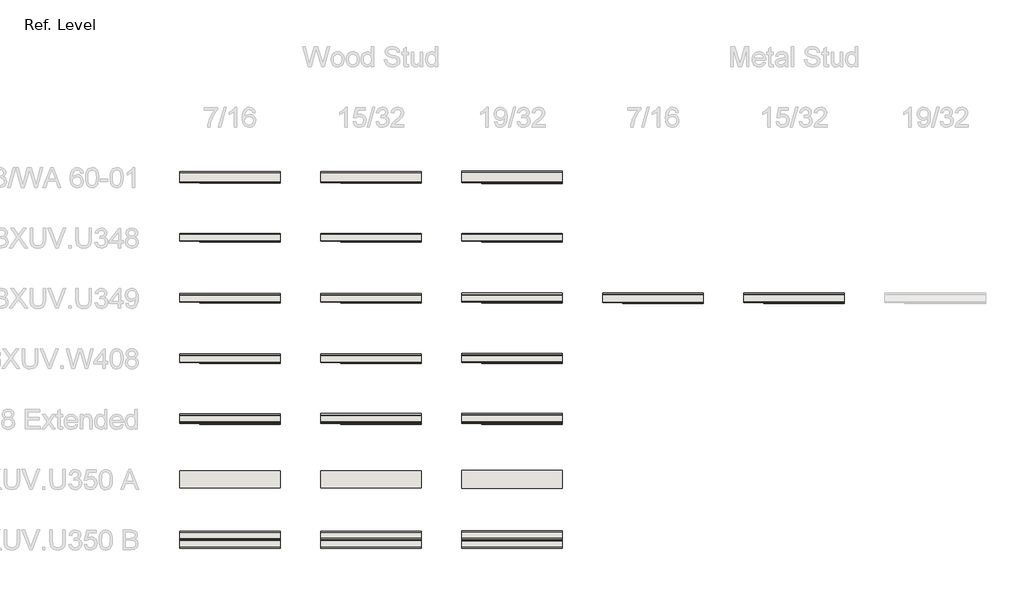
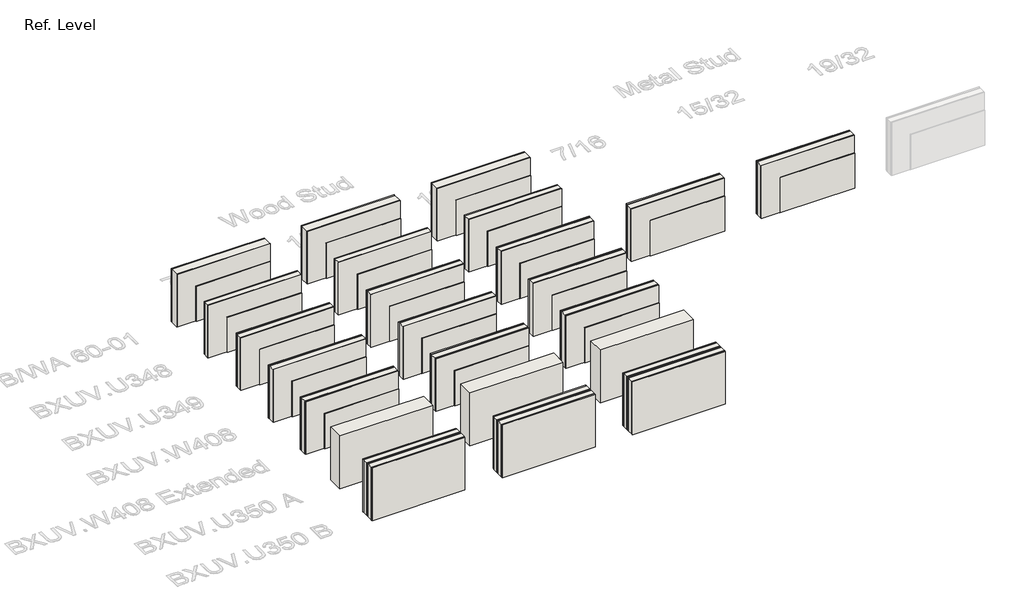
# One storey, part 1 of 5: 23 walls.
"""IFC4 building model written with IfcOpenShell, lengths in millimetres."""

from ifc_helpers import new_model, si_unit, origin, origin_with_axes, place, context, project, spatial, polyline, outline, extrude, element, save

model = new_model("IFC4")

# Units and contexts
model_context = context("Model", 3, world=origin())
ifc_project = project(units=[si_unit("LENGTHUNIT", "METRE", prefix="MILLI")], contexts=[model_context])

# Site, building, storey
site = spatial("IfcSite", under=ifc_project)
building = spatial("IfcBuilding", under=site)
storey = spatial("IfcBuildingStorey", under=building, Name="Ref. Level", Elevation=0.0)

# Walls
placement = place(None, origin())
element("IfcWall", 1, ObjectType="LP FlameBlock - LP Building Products - 7/16\" - Intertek LPB/WA 60-01", at=placement, inside=storey, context=model_context, shape_type="SweptSolid", body=[
    extrude(outline(polyline([(-6204.2239394, -1384.2756705), (-7423.4239394, -1384.2756705), (-7423.4239394, -1371.5756705), (-6204.2239394, -1371.5756705), (-6204.2239394, -1384.2756705)])), origin_with_axes(), (0.0, 0.0, 1.0), 609.6),
    extrude(outline(polyline([(-7728.2239394, -1204.8881705), (-6204.2239394, -1204.8881705), (-6204.2239394, -1220.7631705), (-7728.2239394, -1220.7631705), (-7728.2239394, -1204.8881705)])), origin_with_axes(), (0.0, 0.0, 1.0), 914.4),
    extrude(outline(polyline([(-7728.2239394, -1360.4631705), (-7728.2239394, -1220.7631705), (-6204.2239394, -1220.7631705), (-6204.2239394, -1360.4631705), (-7728.2239394, -1360.4631705)])), origin_with_axes(), (0.0, 0.0, 1.0), 914.4),
    extrude(outline(polyline([(-7728.2239394, -1371.5756705), (-7728.2239394, -1360.4631705), (-6204.2239394, -1360.4631705), (-6204.2239394, -1371.5756705), (-7728.2239394, -1371.5756705)])), origin_with_axes(), (0.0, 0.0, 1.0), 914.4),
])
element("IfcWall", 2, ObjectType="LP FlameBlock - LP Building Products - 15/32\" - Intertek LPB/WA 60-01", at=placement, inside=storey, context=model_context, shape_type="SweptSolid", body=[
    extrude(outline(polyline([(-5594.6239394, -1204.4912955), (-4070.6239394, -1204.4912955), (-4070.6239394, -1220.3662955), (-5594.6239394, -1220.3662955), (-5594.6239394, -1204.4912955)])), origin_with_axes(), (0.0, 0.0, 1.0), 914.4),
    extrude(outline(polyline([(-5594.6239394, -1360.0662955), (-5594.6239394, -1220.3662955), (-4070.6239394, -1220.3662955), (-4070.6239394, -1360.0662955), (-5594.6239394, -1360.0662955)])), origin_with_axes(), (0.0, 0.0, 1.0), 914.4),
    extrude(outline(polyline([(-4070.6239394, -1384.6725455), (-5289.8239394, -1384.6725455), (-5289.8239394, -1371.9725455), (-4070.6239394, -1371.9725455), (-4070.6239394, -1384.6725455)])), origin_with_axes(), (0.0, 0.0, 1.0), 609.6),
    extrude(outline(polyline([(-5594.6239394, -1371.9725455), (-5594.6239394, -1360.0662955), (-4070.6239394, -1360.0662955), (-4070.6239394, -1371.9725455), (-5594.6239394, -1371.9725455)])), origin_with_axes(), (0.0, 0.0, 1.0), 914.4),
])
element("IfcWall", 3, ObjectType="LP FlameBlock - LP Building Products - 19/32\" - Intertek LPB/WA 60-01", at=placement, inside=storey, context=model_context, shape_type="SweptSolid", body=[
    extrude(outline(polyline([(-1937.0239394, -1386.2600455), (-3156.2239394, -1386.2600455), (-3156.2239394, -1373.5600455), (-1937.0239394, -1373.5600455), (-1937.0239394, -1386.2600455)])), origin_with_axes(), (0.0, 0.0, 1.0), 609.6),
    extrude(outline(polyline([(-3461.0239394, -1202.9037955), (-1937.0239394, -1202.9037955), (-1937.0239394, -1218.7787955), (-3461.0239394, -1218.7787955), (-3461.0239394, -1202.9037955)])), origin_with_axes(), (0.0, 0.0, 1.0), 914.4),
    extrude(outline(polyline([(-3461.0239394, -1358.4787955), (-3461.0239394, -1218.7787955), (-1937.0239394, -1218.7787955), (-1937.0239394, -1358.4787955), (-3461.0239394, -1358.4787955)])), origin_with_axes(), (0.0, 0.0, 1.0), 914.4),
    extrude(outline(polyline([(-3461.0239394, -1373.5600455), (-3461.0239394, -1358.4787955), (-1937.0239394, -1358.4787955), (-1937.0239394, -1373.5600455), (-3461.0239394, -1373.5600455)])), origin_with_axes(), (0.0, 0.0, 1.0), 914.4),
])
element("IfcWall", 4, ObjectType="LP FlameBlock - LP Building Products - 7/16\" - BXUV.U348", at=placement, inside=storey, context=model_context, shape_type="SweptSolid", body=[
    extrude(outline(polyline([(-7728.2239394, -2249.4631705), (-7728.2239394, -2160.5631705), (-6204.2239394, -2160.5631705), (-6204.2239394, -2249.4631705), (-7728.2239394, -2249.4631705)])), origin_with_axes(), (0.0, 0.0, 1.0), 914.4),
    extrude(outline(polyline([(-6204.2239394, -2273.2756705), (-7423.4239394, -2273.2756705), (-7423.4239394, -2260.5756705), (-6204.2239394, -2260.5756705), (-6204.2239394, -2273.2756705)])), origin_with_axes(), (0.0, 0.0, 1.0), 609.6),
    extrude(outline(polyline([(-7728.2239394, -2144.6881705), (-6204.2239394, -2144.6881705), (-6204.2239394, -2160.5631705), (-7728.2239394, -2160.5631705), (-7728.2239394, -2144.6881705)])), origin_with_axes(), (0.0, 0.0, 1.0), 914.4),
    extrude(outline(polyline([(-7728.2239394, -2260.5756705), (-7728.2239394, -2249.4631705), (-6204.2239394, -2249.4631705), (-6204.2239394, -2260.5756705), (-7728.2239394, -2260.5756705)])), origin_with_axes(), (0.0, 0.0, 1.0), 914.4),
])
element("IfcWall", 5, ObjectType="LP FlameBlock - LP Building Products - 15/32\" - BXUV.U348", at=placement, inside=storey, context=model_context, shape_type="SweptSolid", body=[
    extrude(outline(polyline([(-5594.6239394, -2249.0662955), (-5594.6239394, -2160.1662955), (-4070.6239394, -2160.1662955), (-4070.6239394, -2249.0662955), (-5594.6239394, -2249.0662955)])), origin_with_axes(), (0.0, 0.0, 1.0), 914.4),
    extrude(outline(polyline([(-4070.6239394, -2273.6725455), (-5289.8239394, -2273.6725455), (-5289.8239394, -2260.9725455), (-4070.6239394, -2260.9725455), (-4070.6239394, -2273.6725455)])), origin_with_axes(), (0.0, 0.0, 1.0), 609.6),
    extrude(outline(polyline([(-5594.6239394, -2144.2912955), (-4070.6239394, -2144.2912955), (-4070.6239394, -2160.1662955), (-5594.6239394, -2160.1662955), (-5594.6239394, -2144.2912955)])), origin_with_axes(), (0.0, 0.0, 1.0), 914.4),
    extrude(outline(polyline([(-5594.6239394, -2260.9725455), (-5594.6239394, -2249.0662955), (-4070.6239394, -2249.0662955), (-4070.6239394, -2260.9725455), (-5594.6239394, -2260.9725455)])), origin_with_axes(), (0.0, 0.0, 1.0), 914.4),
])
element("IfcWall", 6, ObjectType="LP FlameBlock - LP Building Products - 19/32\" - BXUV.U348", at=placement, inside=storey, context=model_context, shape_type="SweptSolid", body=[
    extrude(outline(polyline([(-3461.0239394, -2247.4787955), (-3461.0239394, -2158.5787955), (-1937.0239394, -2158.5787955), (-1937.0239394, -2247.4787955), (-3461.0239394, -2247.4787955)])), origin_with_axes(), (0.0, 0.0, 1.0), 914.4),
    extrude(outline(polyline([(-1937.0239394, -2275.2600455), (-3156.2239394, -2275.2600455), (-3156.2239394, -2262.5600455), (-1937.0239394, -2262.5600455), (-1937.0239394, -2275.2600455)])), origin_with_axes(), (0.0, 0.0, 1.0), 609.6),
    extrude(outline(polyline([(-3461.0239394, -2142.7037955), (-1937.0239394, -2142.7037955), (-1937.0239394, -2158.5787955), (-3461.0239394, -2158.5787955), (-3461.0239394, -2142.7037955)])), origin_with_axes(), (0.0, 0.0, 1.0), 914.4),
    extrude(outline(polyline([(-3461.0239394, -2262.5600455), (-3461.0239394, -2247.4787955), (-1937.0239394, -2247.4787955), (-1937.0239394, -2262.5600455), (-3461.0239394, -2262.5600455)])), origin_with_axes(), (0.0, 0.0, 1.0), 914.4),
])
element("IfcWall", 7, ObjectType="LP FlameBlock - LP Building Products - 7/16\" - BXUV.U349 - Wood Stud", at=placement, inside=storey, context=model_context, shape_type="SweptSolid", body=[
    extrude(outline(polyline([(-7728.2239394, -3171.8006705), (-7728.2239394, -3082.9006705), (-6204.2239394, -3082.9006705), (-6204.2239394, -3171.8006705), (-7728.2239394, -3171.8006705)])), origin_with_axes(), (0.0, 0.0, 1.0), 914.4),
    extrude(outline(polyline([(-6204.2239394, -3195.6131705), (-7423.4239394, -3195.6131705), (-7423.4239394, -3182.9131705), (-6204.2239394, -3182.9131705), (-6204.2239394, -3195.6131705)])), origin_with_axes(), (0.0, 0.0, 1.0), 609.6),
    extrude(outline(polyline([(-7728.2239394, -3051.1506705), (-6204.2239394, -3051.1506705), (-6204.2239394, -3067.0256705), (-7728.2239394, -3067.0256705), (-7728.2239394, -3051.1506705)])), origin_with_axes(), (0.0, 0.0, 1.0), 914.4),
    extrude(outline(polyline([(-7728.2239394, -3182.9131705), (-7728.2239394, -3171.8006705), (-6204.2239394, -3171.8006705), (-6204.2239394, -3182.9131705), (-7728.2239394, -3182.9131705)])), origin_with_axes(), (0.0, 0.0, 1.0), 914.4),
    extrude(outline(polyline([(-7728.2239394, -3082.9006705), (-7728.2239394, -3067.0256705), (-6204.2239394, -3067.0256705), (-6204.2239394, -3082.9006705), (-7728.2239394, -3082.9006705)])), origin_with_axes(), (0.0, 0.0, 1.0), 914.4),
])
element("IfcWall", 8, ObjectType="LP FlameBlock - LP Building Products - 15/32\" - BXUV.U349 - Wood Stud", at=placement, inside=storey, context=model_context, shape_type="SweptSolid", body=[
    extrude(outline(polyline([(-5594.6239394, -3171.4037955), (-5594.6239394, -3082.5037955), (-4070.6239394, -3082.5037955), (-4070.6239394, -3171.4037955), (-5594.6239394, -3171.4037955)])), origin_with_axes(), (0.0, 0.0, 1.0), 914.4),
    extrude(outline(polyline([(-4070.6239394, -3196.0100455), (-5289.8239394, -3196.0100455), (-5289.8239394, -3183.3100455), (-4070.6239394, -3183.3100455), (-4070.6239394, -3196.0100455)])), origin_with_axes(), (0.0, 0.0, 1.0), 609.6),
    extrude(outline(polyline([(-5594.6239394, -3050.7537955), (-4070.6239394, -3050.7537955), (-4070.6239394, -3066.6287955), (-5594.6239394, -3066.6287955), (-5594.6239394, -3050.7537955)])), origin_with_axes(), (0.0, 0.0, 1.0), 914.4),
    extrude(outline(polyline([(-5594.6239394, -3183.3100455), (-5594.6239394, -3171.4037955), (-4070.6239394, -3171.4037955), (-4070.6239394, -3183.3100455), (-5594.6239394, -3183.3100455)])), origin_with_axes(), (0.0, 0.0, 1.0), 914.4),
    extrude(outline(polyline([(-5594.6239394, -3082.5037955), (-5594.6239394, -3066.6287955), (-4070.6239394, -3066.6287955), (-4070.6239394, -3082.5037955), (-5594.6239394, -3082.5037955)])), origin_with_axes(), (0.0, 0.0, 1.0), 914.4),
])
element("IfcWall", 9, ObjectType="LP FlameBlock - LP Building Products - 19/32\" - BXUV.U349 - Wood Stud", at=placement, inside=storey, context=model_context, shape_type="SweptSolid", body=[
    extrude(outline(polyline([(-3461.0239394, -3169.8162955), (-3461.0239394, -3080.9162955), (-1937.0239394, -3080.9162955), (-1937.0239394, -3169.8162955), (-3461.0239394, -3169.8162955)])), origin_with_axes(), (0.0, 0.0, 1.0), 914.4),
    extrude(outline(polyline([(-1937.0239394, -3197.5975455), (-3156.2239394, -3197.5975455), (-3156.2239394, -3184.8975455), (-1937.0239394, -3184.8975455), (-1937.0239394, -3197.5975455)])), origin_with_axes(), (0.0, 0.0, 1.0), 609.6),
    extrude(outline(polyline([(-3461.0239394, -3049.1662955), (-1937.0239394, -3049.1662955), (-1937.0239394, -3065.0412955), (-3461.0239394, -3065.0412955), (-3461.0239394, -3049.1662955)])), origin_with_axes(), (0.0, 0.0, 1.0), 914.4),
    extrude(outline(polyline([(-3461.0239394, -3184.8975455), (-3461.0239394, -3169.8162955), (-1937.0239394, -3169.8162955), (-1937.0239394, -3184.8975455), (-3461.0239394, -3184.8975455)])), origin_with_axes(), (0.0, 0.0, 1.0), 914.4),
    extrude(outline(polyline([(-3461.0239394, -3080.9162955), (-3461.0239394, -3065.0412955), (-1937.0239394, -3065.0412955), (-1937.0239394, -3080.9162955), (-3461.0239394, -3080.9162955)])), origin_with_axes(), (0.0, 0.0, 1.0), 914.4),
])
element("IfcWall", 10, ObjectType="LP FlameBlock - LP Building Products - 7/16\" - BXUV.W408", at=placement, inside=storey, context=model_context, shape_type="SweptSolid", body=[
    extrude(outline(polyline([(-7728.2239394, -4086.2006705), (-7728.2239394, -3997.3006705), (-6204.2239394, -3997.3006705), (-6204.2239394, -4086.2006705), (-7728.2239394, -4086.2006705)])), origin_with_axes(), (0.0, 0.0, 1.0), 914.4),
    extrude(outline(polyline([(-6204.2239394, -4110.0131705), (-7423.4239394, -4110.0131705), (-7423.4239394, -4097.3131705), (-6204.2239394, -4097.3131705), (-6204.2239394, -4110.0131705)])), origin_with_axes(), (0.0, 0.0, 1.0), 609.6),
    extrude(outline(polyline([(-7728.2239394, -3965.5506705), (-6204.2239394, -3965.5506705), (-6204.2239394, -3981.4256705), (-7728.2239394, -3981.4256705), (-7728.2239394, -3965.5506705)])), origin_with_axes(), (0.0, 0.0, 1.0), 914.4),
    extrude(outline(polyline([(-7728.2239394, -4097.3131705), (-7728.2239394, -4086.2006705), (-6204.2239394, -4086.2006705), (-6204.2239394, -4097.3131705), (-7728.2239394, -4097.3131705)])), origin_with_axes(), (0.0, 0.0, 1.0), 914.4),
    extrude(outline(polyline([(-7728.2239394, -3997.3006705), (-7728.2239394, -3981.4256705), (-6204.2239394, -3981.4256705), (-6204.2239394, -3997.3006705), (-7728.2239394, -3997.3006705)])), origin_with_axes(), (0.0, 0.0, 1.0), 914.4),
])
element("IfcWall", 11, ObjectType="LP FlameBlock - LP Building Products - 15/32\" - BXUV.W408", at=placement, inside=storey, context=model_context, shape_type="SweptSolid", body=[
    extrude(outline(polyline([(-5594.6239394, -4085.8037955), (-5594.6239394, -3996.9037955), (-4070.6239394, -3996.9037955), (-4070.6239394, -4085.8037955), (-5594.6239394, -4085.8037955)])), origin_with_axes(), (0.0, 0.0, 1.0), 914.4),
    extrude(outline(polyline([(-4070.6239394, -4110.4100455), (-5289.8239394, -4110.4100455), (-5289.8239394, -4097.7100455), (-4070.6239394, -4097.7100455), (-4070.6239394, -4110.4100455)])), origin_with_axes(), (0.0, 0.0, 1.0), 609.6),
    extrude(outline(polyline([(-5594.6239394, -3965.1537955), (-4070.6239394, -3965.1537955), (-4070.6239394, -3981.0287955), (-5594.6239394, -3981.0287955), (-5594.6239394, -3965.1537955)])), origin_with_axes(), (0.0, 0.0, 1.0), 914.4),
    extrude(outline(polyline([(-5594.6239394, -4097.7100455), (-5594.6239394, -4085.8037955), (-4070.6239394, -4085.8037955), (-4070.6239394, -4097.7100455), (-5594.6239394, -4097.7100455)])), origin_with_axes(), (0.0, 0.0, 1.0), 914.4),
    extrude(outline(polyline([(-5594.6239394, -3996.9037955), (-5594.6239394, -3981.0287955), (-4070.6239394, -3981.0287955), (-4070.6239394, -3996.9037955), (-5594.6239394, -3996.9037955)])), origin_with_axes(), (0.0, 0.0, 1.0), 914.4),
])
element("IfcWall", 12, ObjectType="LP FlameBlock - LP Building Products - 19/32\" - BXUV.W408", at=placement, inside=storey, context=model_context, shape_type="SweptSolid", body=[
    extrude(outline(polyline([(-1937.0239394, -4111.9975455), (-3156.2239394, -4111.9975455), (-3156.2239394, -4099.2975455), (-1937.0239394, -4099.2975455), (-1937.0239394, -4111.9975455)])), origin_with_axes(), (0.0, 0.0, 1.0), 609.6),
    extrude(outline(polyline([(-3461.0239394, -3963.5662955), (-1937.0239394, -3963.5662955), (-1937.0239394, -3979.4412955), (-3461.0239394, -3979.4412955), (-3461.0239394, -3963.5662955)])), origin_with_axes(), (0.0, 0.0, 1.0), 914.4),
    extrude(outline(polyline([(-3461.0239394, -4084.2162955), (-3461.0239394, -3995.3162955), (-1937.0239394, -3995.3162955), (-1937.0239394, -4084.2162955), (-3461.0239394, -4084.2162955)])), origin_with_axes(), (0.0, 0.0, 1.0), 914.4),
    extrude(outline(polyline([(-3461.0239394, -4099.2975455), (-3461.0239394, -4084.2162955), (-1937.0239394, -4084.2162955), (-1937.0239394, -4099.2975455), (-3461.0239394, -4099.2975455)])), origin_with_axes(), (0.0, 0.0, 1.0), 914.4),
    extrude(outline(polyline([(-3461.0239394, -3995.3162955), (-3461.0239394, -3979.4412955), (-1937.0239394, -3979.4412955), (-1937.0239394, -3995.3162955), (-3461.0239394, -3995.3162955)])), origin_with_axes(), (0.0, 0.0, 1.0), 914.4),
])
element("IfcWall", 13, ObjectType="LP FlameBlock - LP Building Products - 7/16\" - BXUV.U350 A", at=placement, inside=storey, context=model_context, shape_type="SweptSolid", body=[
    extrude(outline(polyline([(-6204.2239394, -5995.1694205), (-7728.2239394, -5995.1694205), (-7728.2239394, -5737.9944205), (-6204.2239394, -5737.9944205), (-6204.2239394, -5995.1694205)])), origin_with_axes(), (0.0, 0.0, 1.0), 914.4),
])
element("IfcWall", 14, ObjectType="LP FlameBlock - LP Building Products - 15/32\" - BXUV.U350 A", at=placement, inside=storey, context=model_context, shape_type="SweptSolid", body=[
    extrude(outline(polyline([(-4070.6239394, -5995.9631705), (-5594.6239394, -5995.9631705), (-5594.6239394, -5737.2006705), (-4070.6239394, -5737.2006705), (-4070.6239394, -5995.9631705)])), origin_with_axes(), (0.0, 0.0, 1.0), 914.4),
])
element("IfcWall", 15, ObjectType="LP FlameBlock - LP Building Products - 19/32\" - BXUV.U350 A", at=placement, inside=storey, context=model_context, shape_type="SweptSolid", body=[
    extrude(outline(polyline([(-1937.0239394, -5999.1381705), (-3461.0239394, -5999.1381705), (-3461.0239394, -5734.0256705), (-1937.0239394, -5734.0256705), (-1937.0239394, -5999.1381705)])), origin_with_axes(), (0.0, 0.0, 1.0), 914.4),
])
element("IfcWall", 16, ObjectType="LP FlameBlock - LP Building Products - 7/16\" - BXUV.U350 B", at=placement, inside=storey, context=model_context, shape_type="SweptSolid", body=[
    extrude(outline(polyline([(-6204.2239394, -6909.5694205), (-7728.2239394, -6909.5694205), (-7728.2239394, -6893.6944205), (-6204.2239394, -6893.6944205), (-6204.2239394, -6909.5694205)])), origin_with_axes(), (0.0, 0.0, 1.0), 914.4),
    extrude(outline(polyline([(-7728.2239394, -6652.3944205), (-6204.2239394, -6652.3944205), (-6204.2239394, -6668.2694205), (-7728.2239394, -6668.2694205), (-7728.2239394, -6652.3944205)])), origin_with_axes(), (0.0, 0.0, 1.0), 914.4),
    extrude(outline(polyline([(-7728.2239394, -6887.3444205), (-7728.2239394, -6798.4444205), (-6204.2239394, -6798.4444205), (-6204.2239394, -6887.3444205), (-7728.2239394, -6887.3444205)])), origin_with_axes(), (0.0, 0.0, 1.0), 914.4),
    extrude(outline(polyline([(-7728.2239394, -6774.6319205), (-7728.2239394, -6763.5194205), (-6204.2239394, -6763.5194205), (-6204.2239394, -6774.6319205), (-7728.2239394, -6774.6319205)])), origin_with_axes(), (0.0, 0.0, 1.0), 914.4),
    extrude(outline(polyline([(-7728.2239394, -6787.3319205), (-7728.2239394, -6774.6319205), (-6204.2239394, -6774.6319205), (-6204.2239394, -6787.3319205), (-7728.2239394, -6787.3319205)])), origin_with_axes(), (0.0, 0.0, 1.0), 914.4),
    extrude(outline(polyline([(-7728.2239394, -6798.4444205), (-7728.2239394, -6787.3319205), (-6204.2239394, -6787.3319205), (-6204.2239394, -6798.4444205), (-7728.2239394, -6798.4444205)])), origin_with_axes(), (0.0, 0.0, 1.0), 914.4),
    extrude(outline(polyline([(-7728.2239394, -6763.5194205), (-7728.2239394, -6674.6194205), (-6204.2239394, -6674.6194205), (-6204.2239394, -6763.5194205), (-7728.2239394, -6763.5194205)])), origin_with_axes(), (0.0, 0.0, 1.0), 914.4),
    extrude(outline(polyline([(-7728.2239394, -6674.6194205), (-7728.2239394, -6668.2694205), (-6204.2239394, -6668.2694205), (-6204.2239394, -6674.6194205), (-7728.2239394, -6674.6194205)])), origin_with_axes(), (0.0, 0.0, 1.0), 914.4),
    extrude(outline(polyline([(-7728.2239394, -6893.6944205), (-7728.2239394, -6887.3444205), (-6204.2239394, -6887.3444205), (-6204.2239394, -6893.6944205), (-7728.2239394, -6893.6944205)])), origin_with_axes(), (0.0, 0.0, 1.0), 914.4),
])
element("IfcWall", 17, ObjectType="LP FlameBlock - LP Building Products - 15/32\" - BXUV.U350 B", at=placement, inside=storey, context=model_context, shape_type="SweptSolid", body=[
    extrude(outline(polyline([(-4070.6239394, -6910.3631705), (-5594.6239394, -6910.3631705), (-5594.6239394, -6894.4881705), (-4070.6239394, -6894.4881705), (-4070.6239394, -6910.3631705)])), origin_with_axes(), (0.0, 0.0, 1.0), 914.4),
    extrude(outline(polyline([(-5594.6239394, -6651.6006705), (-4070.6239394, -6651.6006705), (-4070.6239394, -6667.4756705), (-5594.6239394, -6667.4756705), (-5594.6239394, -6651.6006705)])), origin_with_axes(), (0.0, 0.0, 1.0), 914.4),
    extrude(outline(polyline([(-5594.6239394, -6888.1381705), (-5594.6239394, -6799.2381705), (-4070.6239394, -6799.2381705), (-4070.6239394, -6888.1381705), (-5594.6239394, -6888.1381705)])), origin_with_axes(), (0.0, 0.0, 1.0), 914.4),
    extrude(outline(polyline([(-5594.6239394, -6774.6319205), (-5594.6239394, -6762.7256705), (-4070.6239394, -6762.7256705), (-4070.6239394, -6774.6319205), (-5594.6239394, -6774.6319205)])), origin_with_axes(), (0.0, 0.0, 1.0), 914.4),
    extrude(outline(polyline([(-5594.6239394, -6787.3319205), (-5594.6239394, -6774.6319205), (-4070.6239394, -6774.6319205), (-4070.6239394, -6787.3319205), (-5594.6239394, -6787.3319205)])), origin_with_axes(), (0.0, 0.0, 1.0), 914.4),
    extrude(outline(polyline([(-5594.6239394, -6799.2381705), (-5594.6239394, -6787.3319205), (-4070.6239394, -6787.3319205), (-4070.6239394, -6799.2381705), (-5594.6239394, -6799.2381705)])), origin_with_axes(), (0.0, 0.0, 1.0), 914.4),
    extrude(outline(polyline([(-5594.6239394, -6762.7256705), (-5594.6239394, -6673.8256705), (-4070.6239394, -6673.8256705), (-4070.6239394, -6762.7256705), (-5594.6239394, -6762.7256705)])), origin_with_axes(), (0.0, 0.0, 1.0), 914.4),
    extrude(outline(polyline([(-5594.6239394, -6673.8256705), (-5594.6239394, -6667.4756705), (-4070.6239394, -6667.4756705), (-4070.6239394, -6673.8256705), (-5594.6239394, -6673.8256705)])), origin_with_axes(), (0.0, 0.0, 1.0), 914.4),
    extrude(outline(polyline([(-5594.6239394, -6894.4881705), (-5594.6239394, -6888.1381705), (-4070.6239394, -6888.1381705), (-4070.6239394, -6894.4881705), (-5594.6239394, -6894.4881705)])), origin_with_axes(), (0.0, 0.0, 1.0), 914.4),
])
element("IfcWall", 18, ObjectType="LP FlameBlock - LP Building Products - 19/32\" - BXUV.U350 B", at=placement, inside=storey, context=model_context, shape_type="SweptSolid", body=[
    extrude(outline(polyline([(-1937.0239394, -6913.5381705), (-3461.0239394, -6913.5381705), (-3461.0239394, -6897.6631705), (-1937.0239394, -6897.6631705), (-1937.0239394, -6913.5381705)])), origin_with_axes(), (0.0, 0.0, 1.0), 914.4),
    extrude(outline(polyline([(-3461.0239394, -6648.4256705), (-1937.0239394, -6648.4256705), (-1937.0239394, -6664.3006705), (-3461.0239394, -6664.3006705), (-3461.0239394, -6648.4256705)])), origin_with_axes(), (0.0, 0.0, 1.0), 914.4),
    extrude(outline(polyline([(-3461.0239394, -6891.3131705), (-3461.0239394, -6802.4131705), (-1937.0239394, -6802.4131705), (-1937.0239394, -6891.3131705), (-3461.0239394, -6891.3131705)])), origin_with_axes(), (0.0, 0.0, 1.0), 914.4),
    extrude(outline(polyline([(-3461.0239394, -6774.6319205), (-3461.0239394, -6759.5506705), (-1937.0239394, -6759.5506705), (-1937.0239394, -6774.6319205), (-3461.0239394, -6774.6319205)])), origin_with_axes(), (0.0, 0.0, 1.0), 914.4),
    extrude(outline(polyline([(-3461.0239394, -6787.3319205), (-3461.0239394, -6774.6319205), (-1937.0239394, -6774.6319205), (-1937.0239394, -6787.3319205), (-3461.0239394, -6787.3319205)])), origin_with_axes(), (0.0, 0.0, 1.0), 914.4),
    extrude(outline(polyline([(-3461.0239394, -6802.4131705), (-3461.0239394, -6787.3319205), (-1937.0239394, -6787.3319205), (-1937.0239394, -6802.4131705), (-3461.0239394, -6802.4131705)])), origin_with_axes(), (0.0, 0.0, 1.0), 914.4),
    extrude(outline(polyline([(-3461.0239394, -6759.5506705), (-3461.0239394, -6670.6506705), (-1937.0239394, -6670.6506705), (-1937.0239394, -6759.5506705), (-3461.0239394, -6759.5506705)])), origin_with_axes(), (0.0, 0.0, 1.0), 914.4),
    extrude(outline(polyline([(-3461.0239394, -6670.6506705), (-3461.0239394, -6664.3006705), (-1937.0239394, -6664.3006705), (-1937.0239394, -6670.6506705), (-3461.0239394, -6670.6506705)])), origin_with_axes(), (0.0, 0.0, 1.0), 914.4),
    extrude(outline(polyline([(-3461.0239394, -6897.6631705), (-3461.0239394, -6891.3131705), (-1937.0239394, -6891.3131705), (-1937.0239394, -6897.6631705), (-3461.0239394, -6897.6631705)])), origin_with_axes(), (0.0, 0.0, 1.0), 914.4),
])
element("IfcWall", 19, ObjectType="LP FlameBlock - LP Building Products - 7/16\" - BXUV.U349 - Metal Stud", at=placement, inside=storey, context=model_context, shape_type="SweptSolid", body=[
    extrude(outline(polyline([(196.5760606, -3201.9631705), (-1022.6239394, -3201.9631705), (-1022.6239394, -3189.2631705), (196.5760606, -3189.2631705), (196.5760606, -3201.9631705)])), origin_with_axes(), (0.0, 0.0, 1.0), 609.6),
    extrude(outline(polyline([(-1327.4239394, -3044.8006705), (196.5760606, -3044.8006705), (196.5760606, -3060.6756705), (-1327.4239394, -3060.6756705), (-1327.4239394, -3044.8006705)])), origin_with_axes(), (0.0, 0.0, 1.0), 914.4),
    extrude(outline(polyline([(-1327.4239394, -3178.1506705), (-1327.4239394, -3076.5506705), (196.5760606, -3076.5506705), (196.5760606, -3178.1506705), (-1327.4239394, -3178.1506705)])), origin_with_axes(), (0.0, 0.0, 1.0), 914.4),
    extrude(outline(polyline([(-1327.4239394, -3189.2631705), (-1327.4239394, -3178.1506705), (196.5760606, -3178.1506705), (196.5760606, -3189.2631705), (-1327.4239394, -3189.2631705)])), origin_with_axes(), (0.0, 0.0, 1.0), 914.4),
    extrude(outline(polyline([(-1327.4239394, -3076.5506705), (-1327.4239394, -3060.6756705), (196.5760606, -3060.6756705), (196.5760606, -3076.5506705), (-1327.4239394, -3076.5506705)])), origin_with_axes(), (0.0, 0.0, 1.0), 914.4),
])
element("IfcWall", 20, ObjectType="LP FlameBlock - LP Building Products - 15/32\" - BXUV.U349 - Metal Stud", at=placement, inside=storey, context=model_context, shape_type="SweptSolid", body=[
    extrude(outline(polyline([(2330.1760606, -3202.3600455), (1110.9760606, -3202.3600455), (1110.9760606, -3189.6600455), (2330.1760606, -3189.6600455), (2330.1760606, -3202.3600455)])), origin_with_axes(), (0.0, 0.0, 1.0), 609.6),
    extrude(outline(polyline([(806.1760606, -3044.4037955), (2330.1760606, -3044.4037955), (2330.1760606, -3060.2787955), (806.1760606, -3060.2787955), (806.1760606, -3044.4037955)])), origin_with_axes(), (0.0, 0.0, 1.0), 914.4),
    extrude(outline(polyline([(806.1760606, -3177.7537955), (806.1760606, -3076.1537955), (2330.1760606, -3076.1537955), (2330.1760606, -3177.7537955), (806.1760606, -3177.7537955)])), origin_with_axes(), (0.0, 0.0, 1.0), 914.4),
    extrude(outline(polyline([(806.1760606, -3189.6600455), (806.1760606, -3177.7537955), (2330.1760606, -3177.7537955), (2330.1760606, -3189.6600455), (806.1760606, -3189.6600455)])), origin_with_axes(), (0.0, 0.0, 1.0), 914.4),
    extrude(outline(polyline([(806.1760606, -3076.1537955), (806.1760606, -3060.2787955), (2330.1760606, -3060.2787955), (2330.1760606, -3076.1537955), (806.1760606, -3076.1537955)])), origin_with_axes(), (0.0, 0.0, 1.0), 914.4),
])
element("IfcWall", 21, ObjectType="LP FlameBlock - LP Building Products - 7/16\" - BXUV.W408 Extended", at=placement, inside=storey, context=model_context, shape_type="SweptSolid", body=[
    extrude(outline(polyline([(-6204.2239394, -5032.3506705), (-7423.4239394, -5032.3506705), (-7423.4239394, -5019.6506705), (-6204.2239394, -5019.6506705), (-6204.2239394, -5032.3506705)])), origin_with_axes(), (0.0, 0.0, 1.0), 609.6),
    extrude(outline(polyline([(-7728.2239394, -4872.0131705), (-6204.2239394, -4872.0131705), (-6204.2239394, -4887.8881705), (-7728.2239394, -4887.8881705), (-7728.2239394, -4872.0131705)])), origin_with_axes(), (0.0, 0.0, 1.0), 914.4),
    extrude(outline(polyline([(-7728.2239394, -4992.6631705), (-7728.2239394, -4903.7631705), (-6204.2239394, -4903.7631705), (-6204.2239394, -4992.6631705), (-7728.2239394, -4992.6631705)])), origin_with_axes(), (0.0, 0.0, 1.0), 914.4),
    extrude(outline(polyline([(-7728.2239394, -5003.7756705), (-7728.2239394, -4992.6631705), (-6204.2239394, -4992.6631705), (-6204.2239394, -5003.7756705), (-7728.2239394, -5003.7756705)])), origin_with_axes(), (0.0, 0.0, 1.0), 914.4),
    extrude(outline(polyline([(-7728.2239394, -4903.7631705), (-7728.2239394, -4887.8881705), (-6204.2239394, -4887.8881705), (-6204.2239394, -4903.7631705), (-7728.2239394, -4903.7631705)])), origin_with_axes(), (0.0, 0.0, 1.0), 914.4),
    extrude(outline(polyline([(-7728.2239394, -5019.6506705), (-7728.2239394, -5003.7756705), (-6204.2239394, -5003.7756705), (-6204.2239394, -5019.6506705), (-7728.2239394, -5019.6506705)])), origin_with_axes(), (0.0, 0.0, 1.0), 914.4),
])
element("IfcWall", 22, ObjectType="LP FlameBlock - LP Building Products - 15/32\" - BXUV.W408 Extended", at=placement, inside=storey, context=model_context, shape_type="SweptSolid", body=[
    extrude(outline(polyline([(-4070.6239394, -5032.7475455), (-5289.8239394, -5032.7475455), (-5289.8239394, -5020.0475455), (-4070.6239394, -5020.0475455), (-4070.6239394, -5032.7475455)])), origin_with_axes(), (0.0, 0.0, 1.0), 609.6),
    extrude(outline(polyline([(-5594.6239394, -4871.6162955), (-4070.6239394, -4871.6162955), (-4070.6239394, -4887.4912955), (-5594.6239394, -4887.4912955), (-5594.6239394, -4871.6162955)])), origin_with_axes(), (0.0, 0.0, 1.0), 914.4),
    extrude(outline(polyline([(-5594.6239394, -4992.2662955), (-5594.6239394, -4903.3662955), (-4070.6239394, -4903.3662955), (-4070.6239394, -4992.2662955), (-5594.6239394, -4992.2662955)])), origin_with_axes(), (0.0, 0.0, 1.0), 914.4),
    extrude(outline(polyline([(-5594.6239394, -5004.1725455), (-5594.6239394, -4992.2662955), (-4070.6239394, -4992.2662955), (-4070.6239394, -5004.1725455), (-5594.6239394, -5004.1725455)])), origin_with_axes(), (0.0, 0.0, 1.0), 914.4),
    extrude(outline(polyline([(-5594.6239394, -4903.3662955), (-5594.6239394, -4887.4912955), (-4070.6239394, -4887.4912955), (-4070.6239394, -4903.3662955), (-5594.6239394, -4903.3662955)])), origin_with_axes(), (0.0, 0.0, 1.0), 914.4),
    extrude(outline(polyline([(-5594.6239394, -5020.0475455), (-5594.6239394, -5004.1725455), (-4070.6239394, -5004.1725455), (-4070.6239394, -5020.0475455), (-5594.6239394, -5020.0475455)])), origin_with_axes(), (0.0, 0.0, 1.0), 914.4),
])
element("IfcWall", 23, ObjectType="LP FlameBlock - LP Building Products - 19/32\" - BXUV.W408 Extended", at=placement, inside=storey, context=model_context, shape_type="SweptSolid", body=[
    extrude(outline(polyline([(-1937.0239394, -5034.3350455), (-3156.2239394, -5034.3350455), (-3156.2239394, -5021.6350455), (-1937.0239394, -5021.6350455), (-1937.0239394, -5034.3350455)])), origin_with_axes(), (0.0, 0.0, 1.0), 609.6),
    extrude(outline(polyline([(-3461.0239394, -4870.0287955), (-1937.0239394, -4870.0287955), (-1937.0239394, -4885.9037955), (-3461.0239394, -4885.9037955), (-3461.0239394, -4870.0287955)])), origin_with_axes(), (0.0, 0.0, 1.0), 914.4),
    extrude(outline(polyline([(-3461.0239394, -4990.6787955), (-3461.0239394, -4901.7787955), (-1937.0239394, -4901.7787955), (-1937.0239394, -4990.6787955), (-3461.0239394, -4990.6787955)])), origin_with_axes(), (0.0, 0.0, 1.0), 914.4),
    extrude(outline(polyline([(-3461.0239394, -5005.7600455), (-3461.0239394, -4990.6787955), (-1937.0239394, -4990.6787955), (-1937.0239394, -5005.7600455), (-3461.0239394, -5005.7600455)])), origin_with_axes(), (0.0, 0.0, 1.0), 914.4),
    extrude(outline(polyline([(-3461.0239394, -4901.7787955), (-3461.0239394, -4885.9037955), (-1937.0239394, -4885.9037955), (-1937.0239394, -4901.7787955), (-3461.0239394, -4901.7787955)])), origin_with_axes(), (0.0, 0.0, 1.0), 914.4),
    extrude(outline(polyline([(-3461.0239394, -5021.6350455), (-3461.0239394, -5005.7600455), (-1937.0239394, -5005.7600455), (-1937.0239394, -5021.6350455), (-3461.0239394, -5021.6350455)])), origin_with_axes(), (0.0, 0.0, 1.0), 914.4),
])

save(model, "model.ifc")
